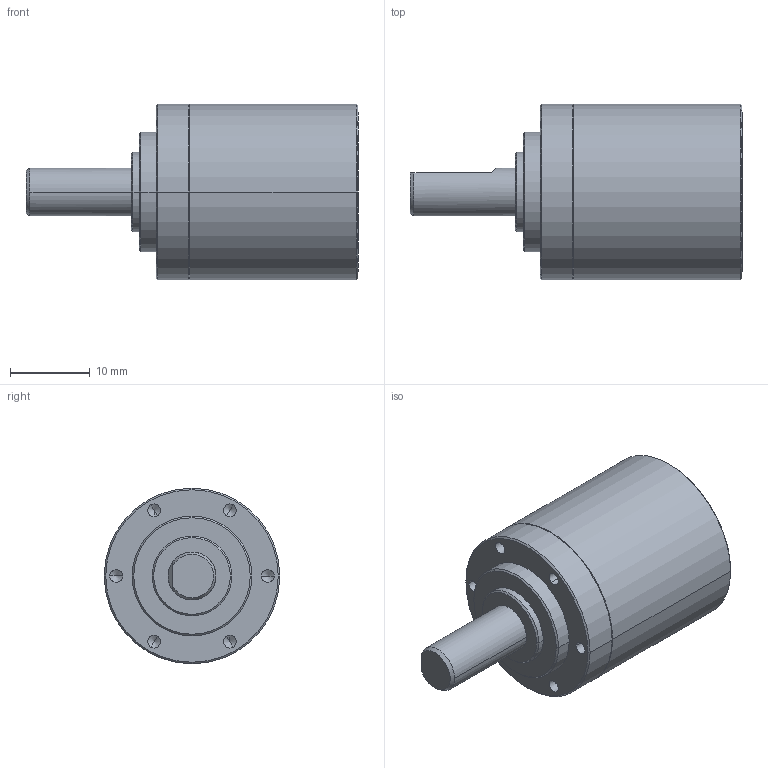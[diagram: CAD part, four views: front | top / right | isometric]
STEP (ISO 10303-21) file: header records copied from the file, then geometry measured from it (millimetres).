
FILE_DESCRIPTION((''),'2;1');
FILE_NAME('1043870','2016-10-04T',('mmagvisi'),(''),'CREO PARAMETRIC BY PTC INC, 2016050','CREO PARAMETRIC BY PTC INC, 2016050','');
FILE_SCHEMA(('CONFIG_CONTROL_DESIGN'));
Length unit declared in the file: millimetre
Products named in the file (1): 1043870
Bounding box: 41.6 x 22 x 22 mm (x, y, z)
Volume: 9621.3 mm3; surface area: 3126.9 mm2
Topology: 1 solids, 1 shells, 59 faces, 131 edges, 72 vertices
Faces by surface type: cone 27, cylinder 24, plane 8
Entity records: 1650 total; most frequent: DIRECTION 294, CARTESIAN_POINT 266, ORIENTED_EDGE 238, AXIS2_PLACEMENT_3D 120, EDGE_CURVE 119, VERTEX_POINT 72, EDGE_LOOP 69, CIRCLE 61
